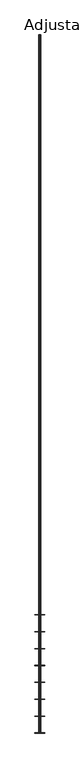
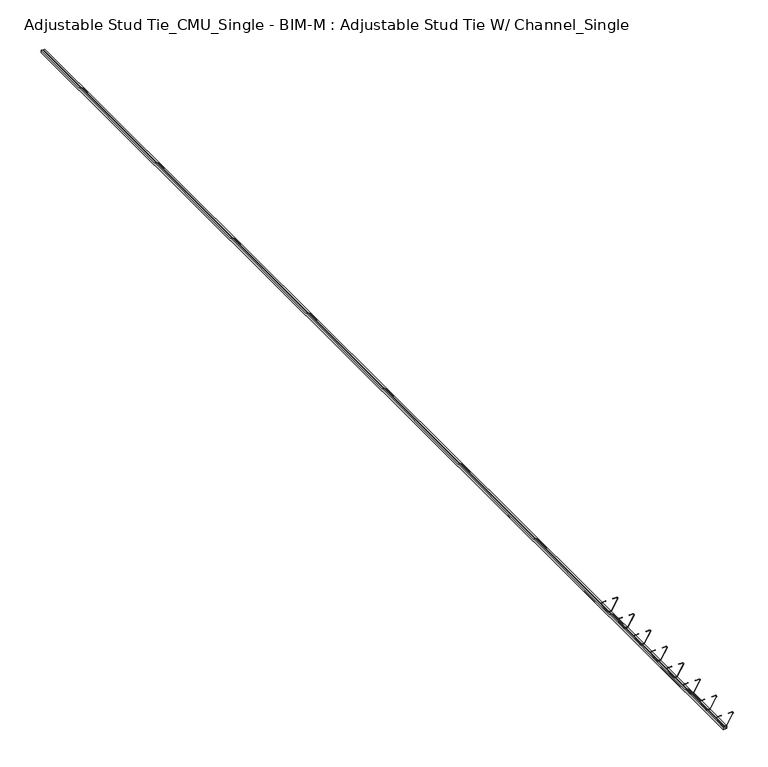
"""IFC4 building model written with IfcOpenShell, lengths in millimetres: proxy geometry, Adjustable Stud Tie_CMU_Single - BIM-M : Adjustable Stud Tie W/ Channel_Single."""

from ifc_helpers import new_model, si_unit, point, frame, frame_2d, origin, place, context, project, spatial, polyline, circle_curve, trimmed, segment, composite_curve, outline, extrude, source, transform, mapped, element, save


def adjustable_stud_tie_cmu_single_bim_m_adjustable_stud_tie_w_26269774(model_context):
    return source(origin(), model_context, "Body", "SweptSolid", [
        extrude(outline(composite_curve([segment(polyline([(-115.6954737, -10.6919936), (-115.6954737, -6.35), (-117.475, -6.35), (-117.475, 6.35), (-115.6954737, 6.35), (-115.6954737, 10.6919936)]), True, "CONTINUOUS"), segment(trimmed(circle_curve(frame_2d((-111.2621335, 10.5975194)), 4.4343467), [point((-115.6954737, 10.6919936))], [point((-113.4793069, 14.4377763))], False, "CARTESIAN"), True, "CONTINUOUS"), segment(polyline([(-113.4793069, 14.4377763), (-38.3089403, 57.8374077)]), True, "CONTINUOUS"), segment(trimmed(circle_curve(frame_2d((-34.2420568, 50.7933588)), 8.133767), [point((-38.3089403, 57.8374077))], [point((-26.1197927, 51.2257847))], False, "CARTESIAN"), True, "CONTINUOUS"), segment(polyline([(-26.1197927, 51.2257847), (-26.1197927, 25.4), (-27.7072927, 25.4), (-27.7072927, 51.1812638)]), True, "CONTINUOUS"), segment(trimmed(circle_curve(frame_2d((-34.2420568, 50.7933588)), 6.546267), [point((-27.7072927, 51.1812638))], [point((-37.5151903, 56.4625923))], True, "CARTESIAN"), True, "CONTINUOUS"), segment(polyline([(-37.5151903, 56.4625923), (-112.6855569, 13.062961)]), True, "CONTINUOUS"), segment(trimmed(circle_curve(frame_2d((-111.2621335, 10.5975194)), 2.8468467), [point((-112.6855569, 13.062961))], [point((-114.1079737, 10.6732143))], True, "CARTESIAN"), True, "CONTINUOUS"), segment(polyline([(-114.1079737, 10.6732143), (-114.1079737, 6.35), (-112.7125, 6.35), (-112.7125, -6.35), (-114.1079737, -6.35), (-114.1079737, -10.6732143)]), True, "CONTINUOUS"), segment(trimmed(circle_curve(frame_2d((-111.2621335, -10.5975194)), 2.8468467), [point((-114.1079737, -10.6732143))], [point((-112.6855569, -13.062961))], True, "CARTESIAN"), True, "CONTINUOUS"), segment(polyline([(-112.6855569, -13.062961), (-37.5151903, -56.4625923)]), True, "CONTINUOUS"), segment(trimmed(circle_curve(frame_2d((-34.2420568, -50.7933588)), 6.546267), [point((-37.5151903, -56.4625923))], [point((-27.7072927, -51.1812638))], True, "CARTESIAN"), True, "CONTINUOUS"), segment(polyline([(-27.7072927, -51.1812638), (-27.7072927, -25.4), (-26.1197927, -25.4), (-26.1197927, -51.2257847)]), True, "CONTINUOUS"), segment(trimmed(circle_curve(frame_2d((-34.2420568, -50.7933588)), 8.133767), [point((-26.1197927, -51.2257847))], [point((-38.3089403, -57.8374077))], False, "CARTESIAN"), True, "CONTINUOUS"), segment(polyline([(-38.3089403, -57.8374077), (-113.4793069, -14.4377763)]), True, "CONTINUOUS"), segment(trimmed(circle_curve(frame_2d((-111.2621335, -10.5975194)), 4.4343467), [point((-113.4793069, -14.4377763))], [point((-115.6954737, -10.6919936))], False, "CARTESIAN"), True, "CONTINUOUS")], self_intersect=False)), frame((0.0, 1422.4, 0.0), z_axis=(0.0, 1.0, 0.0), x_axis=(0.0, 0.0, 1.0)), (0.0, 0.0, 1.0), 1.5875),
        extrude(outline(composite_curve([segment(polyline([(-115.6954737, -10.6919936), (-115.6954737, -6.35), (-117.475, -6.35), (-117.475, 6.35), (-115.6954737, 6.35), (-115.6954737, 10.6919936)]), True, "CONTINUOUS"), segment(trimmed(circle_curve(frame_2d((-111.2621335, 10.5975194)), 4.4343467), [point((-115.6954737, 10.6919936))], [point((-113.4793069, 14.4377763))], False, "CARTESIAN"), True, "CONTINUOUS"), segment(polyline([(-113.4793069, 14.4377763), (-38.3089403, 57.8374077)]), True, "CONTINUOUS"), segment(trimmed(circle_curve(frame_2d((-34.2420568, 50.7933588)), 8.133767), [point((-38.3089403, 57.8374077))], [point((-26.1197927, 51.2257847))], False, "CARTESIAN"), True, "CONTINUOUS"), segment(polyline([(-26.1197927, 51.2257847), (-26.1197927, 25.4), (-27.7072927, 25.4), (-27.7072927, 51.1812638)]), True, "CONTINUOUS"), segment(trimmed(circle_curve(frame_2d((-34.2420568, 50.7933588)), 6.546267), [point((-27.7072927, 51.1812638))], [point((-37.5151903, 56.4625923))], True, "CARTESIAN"), True, "CONTINUOUS"), segment(polyline([(-37.5151903, 56.4625923), (-112.6855569, 13.062961)]), True, "CONTINUOUS"), segment(trimmed(circle_curve(frame_2d((-111.2621335, 10.5975194)), 2.8468467), [point((-112.6855569, 13.062961))], [point((-114.1079737, 10.6732143))], True, "CARTESIAN"), True, "CONTINUOUS"), segment(polyline([(-114.1079737, 10.6732143), (-114.1079737, 6.35), (-112.7125, 6.35), (-112.7125, -6.35), (-114.1079737, -6.35), (-114.1079737, -10.6732143)]), True, "CONTINUOUS"), segment(trimmed(circle_curve(frame_2d((-111.2621335, -10.5975194)), 2.8468467), [point((-114.1079737, -10.6732143))], [point((-112.6855569, -13.062961))], True, "CARTESIAN"), True, "CONTINUOUS"), segment(polyline([(-112.6855569, -13.062961), (-37.5151903, -56.4625923)]), True, "CONTINUOUS"), segment(trimmed(circle_curve(frame_2d((-34.2420568, -50.7933588)), 6.546267), [point((-37.5151903, -56.4625923))], [point((-27.7072927, -51.1812638))], True, "CARTESIAN"), True, "CONTINUOUS"), segment(polyline([(-27.7072927, -51.1812638), (-27.7072927, -25.4), (-26.1197927, -25.4), (-26.1197927, -51.2257847)]), True, "CONTINUOUS"), segment(trimmed(circle_curve(frame_2d((-34.2420568, -50.7933588)), 8.133767), [point((-26.1197927, -51.2257847))], [point((-38.3089403, -57.8374077))], False, "CARTESIAN"), True, "CONTINUOUS"), segment(polyline([(-38.3089403, -57.8374077), (-113.4793069, -14.4377763)]), True, "CONTINUOUS"), segment(trimmed(circle_curve(frame_2d((-111.2621335, -10.5975194)), 4.4343467), [point((-113.4793069, -14.4377763))], [point((-115.6954737, -10.6919936))], False, "CARTESIAN"), True, "CONTINUOUS")], self_intersect=False)), frame((0.0, 1219.2, 0.0), z_axis=(0.0, 1.0, 0.0), x_axis=(0.0, 0.0, 1.0)), (0.0, 0.0, 1.0), 1.5875),
        extrude(outline(composite_curve([segment(polyline([(-115.6954737, -10.6919936), (-115.6954737, -6.35), (-117.475, -6.35), (-117.475, 6.35), (-115.6954737, 6.35), (-115.6954737, 10.6919936)]), True, "CONTINUOUS"), segment(trimmed(circle_curve(frame_2d((-111.2621335, 10.5975194)), 4.4343467), [point((-115.6954737, 10.6919936))], [point((-113.4793069, 14.4377763))], False, "CARTESIAN"), True, "CONTINUOUS"), segment(polyline([(-113.4793069, 14.4377763), (-38.3089403, 57.8374077)]), True, "CONTINUOUS"), segment(trimmed(circle_curve(frame_2d((-34.2420568, 50.7933588)), 8.133767), [point((-38.3089403, 57.8374077))], [point((-26.1197927, 51.2257847))], False, "CARTESIAN"), True, "CONTINUOUS"), segment(polyline([(-26.1197927, 51.2257847), (-26.1197927, 25.4), (-27.7072927, 25.4), (-27.7072927, 51.1812638)]), True, "CONTINUOUS"), segment(trimmed(circle_curve(frame_2d((-34.2420568, 50.7933588)), 6.546267), [point((-27.7072927, 51.1812638))], [point((-37.5151903, 56.4625923))], True, "CARTESIAN"), True, "CONTINUOUS"), segment(polyline([(-37.5151903, 56.4625923), (-112.6855569, 13.062961)]), True, "CONTINUOUS"), segment(trimmed(circle_curve(frame_2d((-111.2621335, 10.5975194)), 2.8468467), [point((-112.6855569, 13.062961))], [point((-114.1079737, 10.6732143))], True, "CARTESIAN"), True, "CONTINUOUS"), segment(polyline([(-114.1079737, 10.6732143), (-114.1079737, 6.35), (-112.7125, 6.35), (-112.7125, -6.35), (-114.1079737, -6.35), (-114.1079737, -10.6732143)]), True, "CONTINUOUS"), segment(trimmed(circle_curve(frame_2d((-111.2621335, -10.5975194)), 2.8468467), [point((-114.1079737, -10.6732143))], [point((-112.6855569, -13.062961))], True, "CARTESIAN"), True, "CONTINUOUS"), segment(polyline([(-112.6855569, -13.062961), (-37.5151903, -56.4625923)]), True, "CONTINUOUS"), segment(trimmed(circle_curve(frame_2d((-34.2420568, -50.7933588)), 6.546267), [point((-37.5151903, -56.4625923))], [point((-27.7072927, -51.1812638))], True, "CARTESIAN"), True, "CONTINUOUS"), segment(polyline([(-27.7072927, -51.1812638), (-27.7072927, -25.4), (-26.1197927, -25.4), (-26.1197927, -51.2257847)]), True, "CONTINUOUS"), segment(trimmed(circle_curve(frame_2d((-34.2420568, -50.7933588)), 8.133767), [point((-26.1197927, -51.2257847))], [point((-38.3089403, -57.8374077))], False, "CARTESIAN"), True, "CONTINUOUS"), segment(polyline([(-38.3089403, -57.8374077), (-113.4793069, -14.4377763)]), True, "CONTINUOUS"), segment(trimmed(circle_curve(frame_2d((-111.2621335, -10.5975194)), 4.4343467), [point((-113.4793069, -14.4377763))], [point((-115.6954737, -10.6919936))], False, "CARTESIAN"), True, "CONTINUOUS")], self_intersect=False)), frame((0.0, 1016.0, 0.0), z_axis=(0.0, 1.0, 0.0), x_axis=(0.0, 0.0, 1.0)), (0.0, 0.0, 1.0), 1.5875),
        extrude(outline(composite_curve([segment(polyline([(-115.6954737, -10.6919936), (-115.6954737, -6.35), (-117.475, -6.35), (-117.475, 6.35), (-115.6954737, 6.35), (-115.6954737, 10.6919936)]), True, "CONTINUOUS"), segment(trimmed(circle_curve(frame_2d((-111.2621335, 10.5975194)), 4.4343467), [point((-115.6954737, 10.6919936))], [point((-113.4793069, 14.4377763))], False, "CARTESIAN"), True, "CONTINUOUS"), segment(polyline([(-113.4793069, 14.4377763), (-38.3089403, 57.8374077)]), True, "CONTINUOUS"), segment(trimmed(circle_curve(frame_2d((-34.2420568, 50.7933588)), 8.133767), [point((-38.3089403, 57.8374077))], [point((-26.1197927, 51.2257847))], False, "CARTESIAN"), True, "CONTINUOUS"), segment(polyline([(-26.1197927, 51.2257847), (-26.1197927, 25.4), (-27.7072927, 25.4), (-27.7072927, 51.1812638)]), True, "CONTINUOUS"), segment(trimmed(circle_curve(frame_2d((-34.2420568, 50.7933588)), 6.546267), [point((-27.7072927, 51.1812638))], [point((-37.5151903, 56.4625923))], True, "CARTESIAN"), True, "CONTINUOUS"), segment(polyline([(-37.5151903, 56.4625923), (-112.6855569, 13.062961)]), True, "CONTINUOUS"), segment(trimmed(circle_curve(frame_2d((-111.2621335, 10.5975194)), 2.8468467), [point((-112.6855569, 13.062961))], [point((-114.1079737, 10.6732143))], True, "CARTESIAN"), True, "CONTINUOUS"), segment(polyline([(-114.1079737, 10.6732143), (-114.1079737, 6.35), (-112.7125, 6.35), (-112.7125, -6.35), (-114.1079737, -6.35), (-114.1079737, -10.6732143)]), True, "CONTINUOUS"), segment(trimmed(circle_curve(frame_2d((-111.2621335, -10.5975194)), 2.8468467), [point((-114.1079737, -10.6732143))], [point((-112.6855569, -13.062961))], True, "CARTESIAN"), True, "CONTINUOUS"), segment(polyline([(-112.6855569, -13.062961), (-37.5151903, -56.4625923)]), True, "CONTINUOUS"), segment(trimmed(circle_curve(frame_2d((-34.2420568, -50.7933588)), 6.546267), [point((-37.5151903, -56.4625923))], [point((-27.7072927, -51.1812638))], True, "CARTESIAN"), True, "CONTINUOUS"), segment(polyline([(-27.7072927, -51.1812638), (-27.7072927, -25.4), (-26.1197927, -25.4), (-26.1197927, -51.2257847)]), True, "CONTINUOUS"), segment(trimmed(circle_curve(frame_2d((-34.2420568, -50.7933588)), 8.133767), [point((-26.1197927, -51.2257847))], [point((-38.3089403, -57.8374077))], False, "CARTESIAN"), True, "CONTINUOUS"), segment(polyline([(-38.3089403, -57.8374077), (-113.4793069, -14.4377763)]), True, "CONTINUOUS"), segment(trimmed(circle_curve(frame_2d((-111.2621335, -10.5975194)), 4.4343467), [point((-113.4793069, -14.4377763))], [point((-115.6954737, -10.6919936))], False, "CARTESIAN"), True, "CONTINUOUS")], self_intersect=False)), frame((0.0, 812.8, 0.0), z_axis=(0.0, 1.0, 0.0), x_axis=(0.0, 0.0, 1.0)), (0.0, 0.0, 1.0), 1.5875),
        extrude(outline(composite_curve([segment(polyline([(-115.6954737, -10.6919936), (-115.6954737, -6.35), (-117.475, -6.35), (-117.475, 6.35), (-115.6954737, 6.35), (-115.6954737, 10.6919936)]), True, "CONTINUOUS"), segment(trimmed(circle_curve(frame_2d((-111.2621335, 10.5975194)), 4.4343467), [point((-115.6954737, 10.6919936))], [point((-113.4793069, 14.4377763))], False, "CARTESIAN"), True, "CONTINUOUS"), segment(polyline([(-113.4793069, 14.4377763), (-38.3089403, 57.8374077)]), True, "CONTINUOUS"), segment(trimmed(circle_curve(frame_2d((-34.2420568, 50.7933588)), 8.133767), [point((-38.3089403, 57.8374077))], [point((-26.1197927, 51.2257847))], False, "CARTESIAN"), True, "CONTINUOUS"), segment(polyline([(-26.1197927, 51.2257847), (-26.1197927, 25.4), (-27.7072927, 25.4), (-27.7072927, 51.1812638)]), True, "CONTINUOUS"), segment(trimmed(circle_curve(frame_2d((-34.2420568, 50.7933588)), 6.546267), [point((-27.7072927, 51.1812638))], [point((-37.5151903, 56.4625923))], True, "CARTESIAN"), True, "CONTINUOUS"), segment(polyline([(-37.5151903, 56.4625923), (-112.6855569, 13.062961)]), True, "CONTINUOUS"), segment(trimmed(circle_curve(frame_2d((-111.2621335, 10.5975194)), 2.8468467), [point((-112.6855569, 13.062961))], [point((-114.1079737, 10.6732143))], True, "CARTESIAN"), True, "CONTINUOUS"), segment(polyline([(-114.1079737, 10.6732143), (-114.1079737, 6.35), (-112.7125, 6.35), (-112.7125, -6.35), (-114.1079737, -6.35), (-114.1079737, -10.6732143)]), True, "CONTINUOUS"), segment(trimmed(circle_curve(frame_2d((-111.2621335, -10.5975194)), 2.8468467), [point((-114.1079737, -10.6732143))], [point((-112.6855569, -13.062961))], True, "CARTESIAN"), True, "CONTINUOUS"), segment(polyline([(-112.6855569, -13.062961), (-37.5151903, -56.4625923)]), True, "CONTINUOUS"), segment(trimmed(circle_curve(frame_2d((-34.2420568, -50.7933588)), 6.546267), [point((-37.5151903, -56.4625923))], [point((-27.7072927, -51.1812638))], True, "CARTESIAN"), True, "CONTINUOUS"), segment(polyline([(-27.7072927, -51.1812638), (-27.7072927, -25.4), (-26.1197927, -25.4), (-26.1197927, -51.2257847)]), True, "CONTINUOUS"), segment(trimmed(circle_curve(frame_2d((-34.2420568, -50.7933588)), 8.133767), [point((-26.1197927, -51.2257847))], [point((-38.3089403, -57.8374077))], False, "CARTESIAN"), True, "CONTINUOUS"), segment(polyline([(-38.3089403, -57.8374077), (-113.4793069, -14.4377763)]), True, "CONTINUOUS"), segment(trimmed(circle_curve(frame_2d((-111.2621335, -10.5975194)), 4.4343467), [point((-113.4793069, -14.4377763))], [point((-115.6954737, -10.6919936))], False, "CARTESIAN"), True, "CONTINUOUS")], self_intersect=False)), frame((0.0, 609.6, 0.0), z_axis=(0.0, 1.0, 0.0), x_axis=(0.0, 0.0, 1.0)), (0.0, 0.0, 1.0), 1.5875),
        extrude(outline(composite_curve([segment(polyline([(-115.6954737, -10.6919936), (-115.6954737, -6.35), (-117.475, -6.35), (-117.475, 6.35), (-115.6954737, 6.35), (-115.6954737, 10.6919936)]), True, "CONTINUOUS"), segment(trimmed(circle_curve(frame_2d((-111.2621335, 10.5975194)), 4.4343467), [point((-115.6954737, 10.6919936))], [point((-113.4793069, 14.4377763))], False, "CARTESIAN"), True, "CONTINUOUS"), segment(polyline([(-113.4793069, 14.4377763), (-38.3089403, 57.8374077)]), True, "CONTINUOUS"), segment(trimmed(circle_curve(frame_2d((-34.2420568, 50.7933588)), 8.133767), [point((-38.3089403, 57.8374077))], [point((-26.1197927, 51.2257847))], False, "CARTESIAN"), True, "CONTINUOUS"), segment(polyline([(-26.1197927, 51.2257847), (-26.1197927, 25.4), (-27.7072927, 25.4), (-27.7072927, 51.1812638)]), True, "CONTINUOUS"), segment(trimmed(circle_curve(frame_2d((-34.2420568, 50.7933588)), 6.546267), [point((-27.7072927, 51.1812638))], [point((-37.5151903, 56.4625923))], True, "CARTESIAN"), True, "CONTINUOUS"), segment(polyline([(-37.5151903, 56.4625923), (-112.6855569, 13.062961)]), True, "CONTINUOUS"), segment(trimmed(circle_curve(frame_2d((-111.2621335, 10.5975194)), 2.8468467), [point((-112.6855569, 13.062961))], [point((-114.1079737, 10.6732143))], True, "CARTESIAN"), True, "CONTINUOUS"), segment(polyline([(-114.1079737, 10.6732143), (-114.1079737, 6.35), (-112.7125, 6.35), (-112.7125, -6.35), (-114.1079737, -6.35), (-114.1079737, -10.6732143)]), True, "CONTINUOUS"), segment(trimmed(circle_curve(frame_2d((-111.2621335, -10.5975194)), 2.8468467), [point((-114.1079737, -10.6732143))], [point((-112.6855569, -13.062961))], True, "CARTESIAN"), True, "CONTINUOUS"), segment(polyline([(-112.6855569, -13.062961), (-37.5151903, -56.4625923)]), True, "CONTINUOUS"), segment(trimmed(circle_curve(frame_2d((-34.2420568, -50.7933588)), 6.546267), [point((-37.5151903, -56.4625923))], [point((-27.7072927, -51.1812638))], True, "CARTESIAN"), True, "CONTINUOUS"), segment(polyline([(-27.7072927, -51.1812638), (-27.7072927, -25.4), (-26.1197927, -25.4), (-26.1197927, -51.2257847)]), True, "CONTINUOUS"), segment(trimmed(circle_curve(frame_2d((-34.2420568, -50.7933588)), 8.133767), [point((-26.1197927, -51.2257847))], [point((-38.3089403, -57.8374077))], False, "CARTESIAN"), True, "CONTINUOUS"), segment(polyline([(-38.3089403, -57.8374077), (-113.4793069, -14.4377763)]), True, "CONTINUOUS"), segment(trimmed(circle_curve(frame_2d((-111.2621335, -10.5975194)), 4.4343467), [point((-113.4793069, -14.4377763))], [point((-115.6954737, -10.6919936))], False, "CARTESIAN"), True, "CONTINUOUS")], self_intersect=False)), frame((0.0, 406.4, 0.0), z_axis=(0.0, 1.0, 0.0), x_axis=(0.0, 0.0, 1.0)), (0.0, 0.0, 1.0), 1.5875),
        extrude(outline(composite_curve([segment(polyline([(-115.6954737, -10.6919936), (-115.6954737, -6.35), (-117.475, -6.35), (-117.475, 6.35), (-115.6954737, 6.35), (-115.6954737, 10.6919936)]), True, "CONTINUOUS"), segment(trimmed(circle_curve(frame_2d((-111.2621335, 10.5975194)), 4.4343467), [point((-115.6954737, 10.6919936))], [point((-113.4793069, 14.4377763))], False, "CARTESIAN"), True, "CONTINUOUS"), segment(polyline([(-113.4793069, 14.4377763), (-38.3089403, 57.8374077)]), True, "CONTINUOUS"), segment(trimmed(circle_curve(frame_2d((-34.2420568, 50.7933588)), 8.133767), [point((-38.3089403, 57.8374077))], [point((-26.1197927, 51.2257847))], False, "CARTESIAN"), True, "CONTINUOUS"), segment(polyline([(-26.1197927, 51.2257847), (-26.1197927, 25.4), (-27.7072927, 25.4), (-27.7072927, 51.1812638)]), True, "CONTINUOUS"), segment(trimmed(circle_curve(frame_2d((-34.2420568, 50.7933588)), 6.546267), [point((-27.7072927, 51.1812638))], [point((-37.5151903, 56.4625923))], True, "CARTESIAN"), True, "CONTINUOUS"), segment(polyline([(-37.5151903, 56.4625923), (-112.6855569, 13.062961)]), True, "CONTINUOUS"), segment(trimmed(circle_curve(frame_2d((-111.2621335, 10.5975194)), 2.8468467), [point((-112.6855569, 13.062961))], [point((-114.1079737, 10.6732143))], True, "CARTESIAN"), True, "CONTINUOUS"), segment(polyline([(-114.1079737, 10.6732143), (-114.1079737, 6.35), (-112.7125, 6.35), (-112.7125, -6.35), (-114.1079737, -6.35), (-114.1079737, -10.6732143)]), True, "CONTINUOUS"), segment(trimmed(circle_curve(frame_2d((-111.2621335, -10.5975194)), 2.8468467), [point((-114.1079737, -10.6732143))], [point((-112.6855569, -13.062961))], True, "CARTESIAN"), True, "CONTINUOUS"), segment(polyline([(-112.6855569, -13.062961), (-37.5151903, -56.4625923)]), True, "CONTINUOUS"), segment(trimmed(circle_curve(frame_2d((-34.2420568, -50.7933588)), 6.546267), [point((-37.5151903, -56.4625923))], [point((-27.7072927, -51.1812638))], True, "CARTESIAN"), True, "CONTINUOUS"), segment(polyline([(-27.7072927, -51.1812638), (-27.7072927, -25.4), (-26.1197927, -25.4), (-26.1197927, -51.2257847)]), True, "CONTINUOUS"), segment(trimmed(circle_curve(frame_2d((-34.2420568, -50.7933588)), 8.133767), [point((-26.1197927, -51.2257847))], [point((-38.3089403, -57.8374077))], False, "CARTESIAN"), True, "CONTINUOUS"), segment(polyline([(-38.3089403, -57.8374077), (-113.4793069, -14.4377763)]), True, "CONTINUOUS"), segment(trimmed(circle_curve(frame_2d((-111.2621335, -10.5975194)), 4.4343467), [point((-113.4793069, -14.4377763))], [point((-115.6954737, -10.6919936))], False, "CARTESIAN"), True, "CONTINUOUS")], self_intersect=False)), frame((0.0, 203.2, 0.0), z_axis=(0.0, 1.0, 0.0), x_axis=(0.0, 0.0, 1.0)), (0.0, 0.0, 1.0), 1.5875),
        extrude(outline(composite_curve([segment(polyline([(-115.6954737, -10.6919936), (-115.6954737, -6.35), (-117.475, -6.35), (-117.475, 6.35), (-115.6954737, 6.35), (-115.6954737, 10.6919936)]), True, "CONTINUOUS"), segment(trimmed(circle_curve(frame_2d((-111.2621335, 10.5975194)), 4.4343467), [point((-115.6954737, 10.6919936))], [point((-113.4793069, 14.4377763))], False, "CARTESIAN"), True, "CONTINUOUS"), segment(polyline([(-113.4793069, 14.4377763), (-38.3089403, 57.8374077)]), True, "CONTINUOUS"), segment(trimmed(circle_curve(frame_2d((-34.2420568, 50.7933588)), 8.133767), [point((-38.3089403, 57.8374077))], [point((-26.1197927, 51.2257847))], False, "CARTESIAN"), True, "CONTINUOUS"), segment(polyline([(-26.1197927, 51.2257847), (-26.1197927, 25.4), (-27.7072927, 25.4), (-27.7072927, 51.1812638)]), True, "CONTINUOUS"), segment(trimmed(circle_curve(frame_2d((-34.2420568, 50.7933588)), 6.546267), [point((-27.7072927, 51.1812638))], [point((-37.5151903, 56.4625923))], True, "CARTESIAN"), True, "CONTINUOUS"), segment(polyline([(-37.5151903, 56.4625923), (-112.6855569, 13.062961)]), True, "CONTINUOUS"), segment(trimmed(circle_curve(frame_2d((-111.2621335, 10.5975194)), 2.8468467), [point((-112.6855569, 13.062961))], [point((-114.1079737, 10.6732143))], True, "CARTESIAN"), True, "CONTINUOUS"), segment(polyline([(-114.1079737, 10.6732143), (-114.1079737, 6.35), (-112.7125, 6.35), (-112.7125, -6.35), (-114.1079737, -6.35), (-114.1079737, -10.6732143)]), True, "CONTINUOUS"), segment(trimmed(circle_curve(frame_2d((-111.2621335, -10.5975194)), 2.8468467), [point((-114.1079737, -10.6732143))], [point((-112.6855569, -13.062961))], True, "CARTESIAN"), True, "CONTINUOUS"), segment(polyline([(-112.6855569, -13.062961), (-37.5151903, -56.4625923)]), True, "CONTINUOUS"), segment(trimmed(circle_curve(frame_2d((-34.2420568, -50.7933588)), 6.546267), [point((-37.5151903, -56.4625923))], [point((-27.7072927, -51.1812638))], True, "CARTESIAN"), True, "CONTINUOUS"), segment(polyline([(-27.7072927, -51.1812638), (-27.7072927, -25.4), (-26.1197927, -25.4), (-26.1197927, -51.2257847)]), True, "CONTINUOUS"), segment(trimmed(circle_curve(frame_2d((-34.2420568, -50.7933588)), 8.133767), [point((-26.1197927, -51.2257847))], [point((-38.3089403, -57.8374077))], False, "CARTESIAN"), True, "CONTINUOUS"), segment(polyline([(-38.3089403, -57.8374077), (-113.4793069, -14.4377763)]), True, "CONTINUOUS"), segment(trimmed(circle_curve(frame_2d((-111.2621335, -10.5975194)), 4.4343467), [point((-113.4793069, -14.4377763))], [point((-115.6954737, -10.6919936))], False, "CARTESIAN"), True, "CONTINUOUS")], self_intersect=False)), frame((0.0, 0.0, 0.0), z_axis=(0.0, 1.0, 0.0), x_axis=(0.0, 0.0, 1.0)), (0.0, 0.0, 1.0), 1.5875),
        extrude(outline(polyline([(-136.525, 12.7), (-117.475, 12.7), (-117.475, 4.7669306), (-120.65, 4.7669306), (-120.65, 9.525), (-133.35, 9.525), (-133.35, -9.525), (-120.65, -9.525), (-120.65, -4.7669306), (-117.475, -4.7669306), (-117.475, -12.7), (-136.525, -12.7), (-136.525, 12.7)])), frame((0.0, 0.0, 0.0), z_axis=(0.0, 1.0, 0.0), x_axis=(0.0, 0.0, 1.0)), (0.0, 0.0, 1.0), 8407.4),
    ])


if __name__ == "__main__":
    model = new_model("IFC4")
    model_context = context("Model", 3, world=origin())
    ifc_project = project(units=[si_unit("LENGTHUNIT", "METRE", prefix="MILLI")], contexts=[model_context])
    site = spatial("IfcSite", under=ifc_project)
    building = spatial("IfcBuilding", under=site)
    placement = place(None, origin())
    adjustable_stud_tie_cmu_single_bim_m_adjustable_stud_tie_w_shape = adjustable_stud_tie_cmu_single_bim_m_adjustable_stud_tie_w_26269774(model_context)
    element("IfcBuildingElementProxy", 1, Name="Adjustable Stud Tie_CMU_Single - BIM-M : Adjustable Stud Tie W/ Channel_Single", ObjectType="Adjustable Stud Tie_CMU_Single - BIM-M : Adjustable Stud Tie W/ Channel_Single", at=placement, inside=building, context=model_context, shape_type="MappedRepresentation", body=[
        mapped(adjustable_stud_tie_cmu_single_bim_m_adjustable_stud_tie_w_shape, transform((0.0, 0.0, 0.0), x_axis=(1.0, 0.0, 0.0), y_axis=(0.0, 1.0, 0.0), z_axis=(0.0, 0.0, 1.0))),
    ])
    save(model, "model.ifc")
